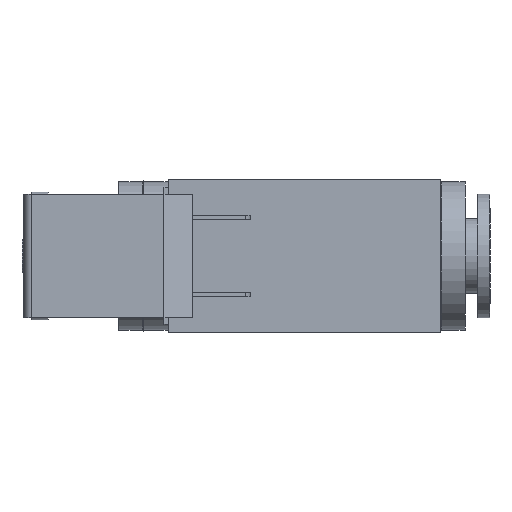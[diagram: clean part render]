
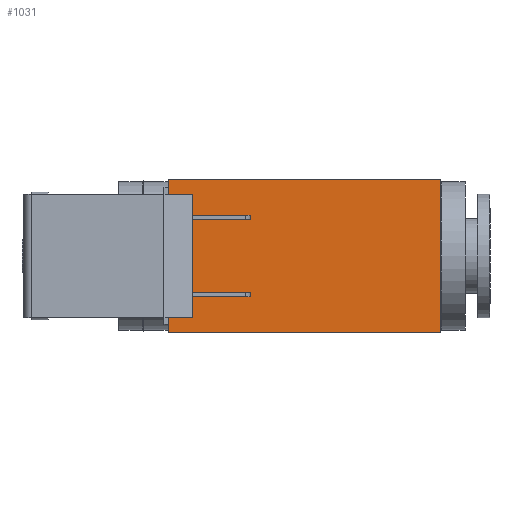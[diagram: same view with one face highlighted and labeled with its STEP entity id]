
A CAD part, left-side view. The second image highlights one B-rep face of the part: STEP entity #1031.
In plain terms, the highlighted planar face has unit normal (-1, 0, 0).
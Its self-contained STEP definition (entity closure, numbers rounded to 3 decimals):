
#992=CARTESIAN_POINT('',(-46.5,-0.5,0.));
#993=DIRECTION('',(1.0,0.0,0.0));
#994=DIRECTION('',(0.0,0.0,-1.0));
#995=AXIS2_PLACEMENT_3D('',#992,#993,#994);
#996=PLANE('',#995);
#997=CARTESIAN_POINT('',(-46.5,-17.,9.25));
#998=VERTEX_POINT('',#997);
#999=CARTESIAN_POINT('',(-46.5,-17.0,-9.25));
#1000=VERTEX_POINT('',#999);
#1001=CARTESIAN_POINT('',(-46.5,-17.,9.25));
#1002=DIRECTION('',(0.0,0.0,-1.0));
#1003=VECTOR('',#1002,18.5);
#1004=LINE('',#1001,#1003);
#1005=EDGE_CURVE('',#998,#1000,#1004,.T.);
#1006=ORIENTED_EDGE('',*,*,#1005,.F.);
#1007=CARTESIAN_POINT('',(-46.5,16.,9.25));
#1008=VERTEX_POINT('',#1007);
#1009=CARTESIAN_POINT('',(-46.5,16.,9.25));
#1010=DIRECTION('',(0.0,-1.0,0.0));
#1011=VECTOR('',#1010,33.0);
#1012=LINE('',#1009,#1011);
#1013=EDGE_CURVE('',#1008,#998,#1012,.T.);
#1014=ORIENTED_EDGE('',*,*,#1013,.F.);
#1015=CARTESIAN_POINT('',(-46.5,16.,-9.25));
#1016=VERTEX_POINT('',#1015);
#1017=CARTESIAN_POINT('',(-46.5,16.,-9.25));
#1018=DIRECTION('',(0.0,0.0,1.0));
#1019=VECTOR('',#1018,18.5);
#1020=LINE('',#1017,#1019);
#1021=EDGE_CURVE('',#1016,#1008,#1020,.T.);
#1022=ORIENTED_EDGE('',*,*,#1021,.F.);
#1023=CARTESIAN_POINT('',(-46.5,-17.0,-9.25));
#1024=DIRECTION('',(0.0,1.0,0.0));
#1025=VECTOR('',#1024,33.);
#1026=LINE('',#1023,#1025);
#1027=EDGE_CURVE('',#1000,#1016,#1026,.T.);
#1028=ORIENTED_EDGE('',*,*,#1027,.F.);
#1029=EDGE_LOOP('',(#1006,#1014,#1022,#1028));
#1030=FACE_OUTER_BOUND('',#1029,.T.);
#1031=ADVANCED_FACE('',(#1030),#996,.F.);
